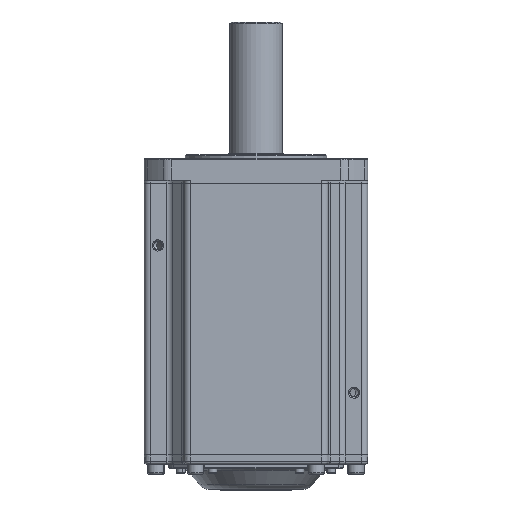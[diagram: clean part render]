
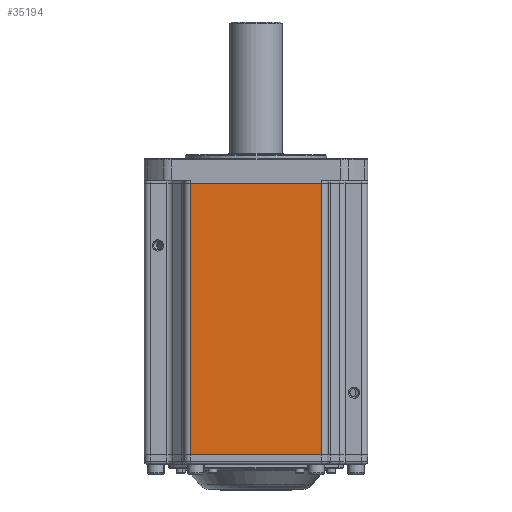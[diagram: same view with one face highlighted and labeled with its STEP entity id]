
A CAD part, front view. The second image highlights one B-rep face of the part: STEP entity #35194.
In plain terms, the highlighted planar face has unit normal (0, -1, 0).
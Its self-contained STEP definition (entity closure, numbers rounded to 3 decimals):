
#2985 = CARTESIAN_POINT ( 'NONE',  ( 53.026, -89.007, 103.327 ) ) ;
#3094 = DIRECTION ( 'NONE',  ( 0., 0., -1. ) ) ;
#5916 = CARTESIAN_POINT ( 'NONE',  ( 53.026, -89.007, -115.273 ) ) ;
#9006 = ORIENTED_EDGE ( 'NONE', *, *, #62554, .T. ) ;
#9086 = VERTEX_POINT ( 'NONE', #24687 ) ;
#9315 = CARTESIAN_POINT ( 'NONE',  ( -154.318, -89.007, -115.273 ) ) ;
#10854 = VECTOR ( 'NONE', #33629, 1000. ) ;
#11890 = CARTESIAN_POINT ( 'NONE',  ( 58.026, -89.007, 103.327 ) ) ;
#14777 = FACE_OUTER_BOUND ( 'NONE', #25620, .T. ) ;
#16933 = AXIS2_PLACEMENT_3D ( 'NONE', #32585, #23149, #3094 ) ;
#17296 = VERTEX_POINT ( 'NONE', #5916 ) ;
#19871 = LINE ( 'NONE', #23416, #36052 ) ;
#23149 = DIRECTION ( 'NONE',  ( 0., 1., 0. ) ) ;
#23416 = CARTESIAN_POINT ( 'NONE',  ( -52.974, -89.007, -896.673 ) ) ;
#23965 = LINE ( 'NONE', #9315, #10854 ) ;
#24687 = CARTESIAN_POINT ( 'NONE',  ( -52.974, -89.007, -115.273 ) ) ;
#25620 = EDGE_LOOP ( 'NONE', ( #47655, #26804, #9006, #48417 ) ) ;
#26804 = ORIENTED_EDGE ( 'NONE', *, *, #52880, .T. ) ;
#30785 = LINE ( 'NONE', #56987, #62594 ) ;
#32349 = CARTESIAN_POINT ( 'NONE',  ( -52.974, -89.007, 103.327 ) ) ;
#32585 = CARTESIAN_POINT ( 'NONE',  ( 58.026, -89.007, -896.673 ) ) ;
#33629 = DIRECTION ( 'NONE',  ( 1., 0., 0. ) ) ;
#35194 = ADVANCED_FACE ( 'NONE', ( #14777 ), #62070, .F. ) ;
#35587 = EDGE_CURVE ( 'NONE', #47279, #38646, #53382, .T. ) ;
#36052 = VECTOR ( 'NONE', #53428, 1000. ) ;
#38646 = VERTEX_POINT ( 'NONE', #32349 ) ;
#42191 = DIRECTION ( 'NONE',  ( 0., 0., 1. ) ) ;
#46121 = EDGE_CURVE ( 'NONE', #38646, #9086, #19871, .T. ) ;
#47279 = VERTEX_POINT ( 'NONE', #2985 ) ;
#47655 = ORIENTED_EDGE ( 'NONE', *, *, #46121, .T. ) ;
#48417 = ORIENTED_EDGE ( 'NONE', *, *, #35587, .T. ) ;
#51840 = VECTOR ( 'NONE', #60508, 1000. ) ;
#52880 = EDGE_CURVE ( 'NONE', #9086, #17296, #23965, .T. ) ;
#53382 = LINE ( 'NONE', #11890, #51840 ) ;
#53428 = DIRECTION ( 'NONE',  ( 0., 0., -1. ) ) ;
#56987 = CARTESIAN_POINT ( 'NONE',  ( 53.026, -89.007, -896.673 ) ) ;
#60508 = DIRECTION ( 'NONE',  ( -1., 0., 0. ) ) ;
#62070 = PLANE ( 'NONE',  #16933 ) ;
#62554 = EDGE_CURVE ( 'NONE', #17296, #47279, #30785, .T. ) ;
#62594 = VECTOR ( 'NONE', #42191, 1000. ) ;
